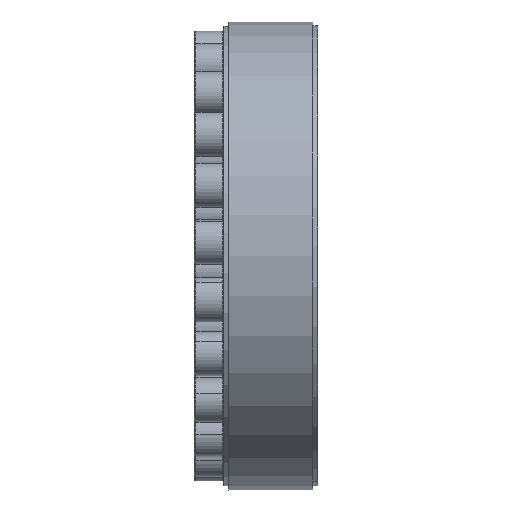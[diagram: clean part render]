
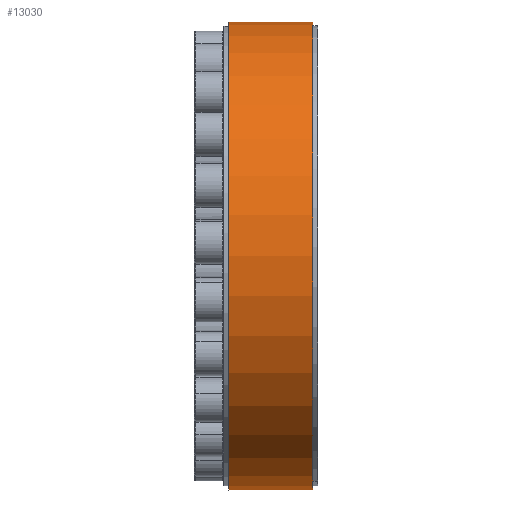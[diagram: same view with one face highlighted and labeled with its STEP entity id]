
A CAD part, top view. The second image highlights one B-rep face of the part: STEP entity #13030.
In plain terms, the highlighted cylindrical face has radius 94.994 mm (diameter 189.988 mm), a partial arc.
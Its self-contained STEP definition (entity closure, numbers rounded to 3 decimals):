
#121 = AXIS2_PLACEMENT_3D ( 'NONE', #2864, #12806, #5293 ) ;
#126 = DIRECTION ( 'NONE',  ( 1., 0., 0. ) ) ;
#251 = VERTEX_POINT ( 'NONE', #970 ) ;
#388 = CARTESIAN_POINT ( 'NONE',  ( -16.989, -94.996, 0. ) ) ;
#726 = AXIS2_PLACEMENT_3D ( 'NONE', #7697, #126, #6526 ) ;
#793 = DIRECTION ( 'NONE',  ( 1., 0., 0. ) ) ;
#796 = CARTESIAN_POINT ( 'NONE',  ( 19.992, 94.996, 0. ) ) ;
#970 = CARTESIAN_POINT ( 'NONE',  ( 17.011, -94.992, 0. ) ) ;
#1142 = EDGE_CURVE ( 'NONE', #16279, #7244, #6650, .T. ) ;
#1525 = FACE_OUTER_BOUND ( 'NONE', #10396, .T. ) ;
#1619 = ORIENTED_EDGE ( 'NONE', *, *, #8984, .T. ) ;
#2864 = CARTESIAN_POINT ( 'NONE',  ( 17.001, 0.002, 0. ) ) ;
#2995 = VERTEX_POINT ( 'NONE', #388 ) ;
#3671 = DIRECTION ( 'NONE',  ( 1., 0., 0. ) ) ;
#3972 = CARTESIAN_POINT ( 'NONE',  ( 16.992, 94.996, 0. ) ) ;
#5219 = AXIS2_PLACEMENT_3D ( 'NONE', #9352, #15668, #5476 ) ;
#5293 = DIRECTION ( 'NONE',  ( 0., 1., 0. ) ) ;
#5476 = DIRECTION ( 'NONE',  ( 0., 1., 0. ) ) ;
#5974 = CIRCLE ( 'NONE', #5219, 94.994 ) ;
#6526 = DIRECTION ( 'NONE',  ( 0., 1., 0. ) ) ;
#6650 = LINE ( 'NONE', #796, #9019 ) ;
#6963 = EDGE_CURVE ( 'NONE', #2995, #251, #15169, .T. ) ;
#7132 = CARTESIAN_POINT ( 'NONE',  ( 20.011, -94.992, 0. ) ) ;
#7244 = VERTEX_POINT ( 'NONE', #3972 ) ;
#7697 = CARTESIAN_POINT ( 'NONE',  ( 20.001, 0.002, 0. ) ) ;
#7787 = CARTESIAN_POINT ( 'NONE',  ( -17.008, 94.992, 0. ) ) ;
#8491 = ORIENTED_EDGE ( 'NONE', *, *, #1142, .F. ) ;
#8571 = CIRCLE ( 'NONE', #121, 94.994 ) ;
#8984 = EDGE_CURVE ( 'NONE', #16279, #2995, #5974, .T. ) ;
#9019 = VECTOR ( 'NONE', #3671, 1000. ) ;
#9352 = CARTESIAN_POINT ( 'NONE',  ( -16.999, -0.002, 0. ) ) ;
#10396 = EDGE_LOOP ( 'NONE', ( #1619, #13535, #16305, #8491 ) ) ;
#10815 = CYLINDRICAL_SURFACE ( 'NONE', #726, 94.994 ) ;
#11372 = VECTOR ( 'NONE', #793, 1000. ) ;
#12806 = DIRECTION ( 'NONE',  ( 1., 0., 0. ) ) ;
#13030 = ADVANCED_FACE ( 'NONE', ( #1525 ), #10815, .T. ) ;
#13535 = ORIENTED_EDGE ( 'NONE', *, *, #6963, .T. ) ;
#15169 = LINE ( 'NONE', #7132, #11372 ) ;
#15668 = DIRECTION ( 'NONE',  ( 1., 0., 0. ) ) ;
#16279 = VERTEX_POINT ( 'NONE', #7787 ) ;
#16305 = ORIENTED_EDGE ( 'NONE', *, *, #16357, .F. ) ;
#16357 = EDGE_CURVE ( 'NONE', #7244, #251, #8571, .T. ) ;
